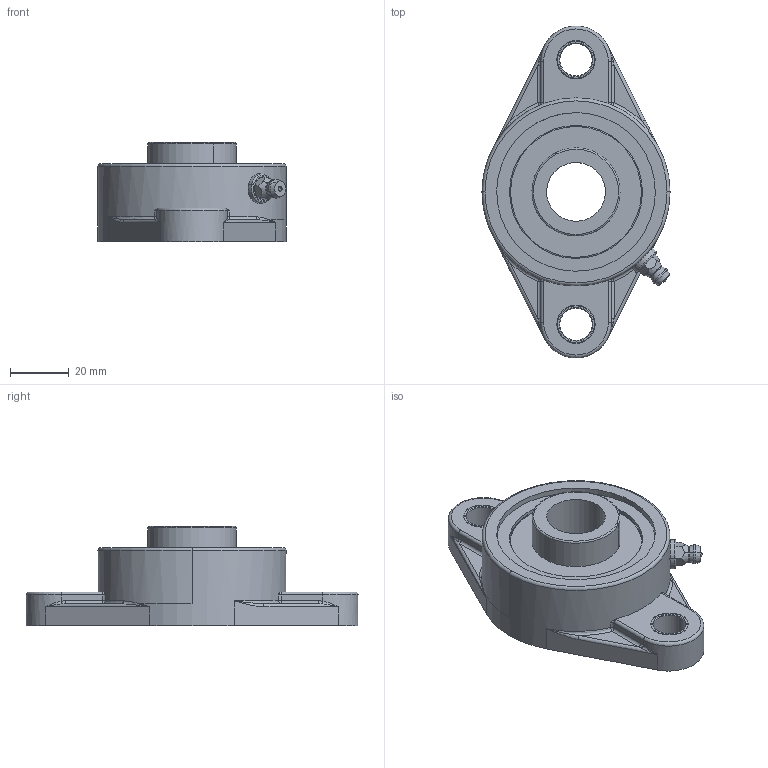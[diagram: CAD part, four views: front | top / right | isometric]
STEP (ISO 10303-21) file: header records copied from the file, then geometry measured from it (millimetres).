
FILE_DESCRIPTION(('CATIA V5 STEP Exchange'),'2;1');
FILE_NAME('\\server01\tecnico\CODICI MOVEX\3D per clienti\Tom\16-11-2012\P81300_01.stp','2012-11-16T15:14:40+00:00',('none'),('none'),'CATIA Version 5 Release 21 SP 1 (IN-10)','CATIA V5 STEP AP203','none');
FILE_SCHEMA(('CONFIG_CONTROL_DESIGN'));
Length unit declared in the file: millimetre
Products named in the file (1): UCFH-SS
Assembly tree (4 placements, depth 2):
  UCFH-SS
    #58
    #3568
    #4466
    #4749
Bounding box: 64 x 113 x 33.7 mm (x, y, z)
Volume: 75176 mm3; surface area: 26918.9 mm2
Topology: 6 solids, 6 shells, 164 faces, 384 edges, 224 vertices
Faces by surface type: cylinder 59, plane 37, torus 26, cone 18, bspline 14, sphere 10
Entity records: 5099 total; most frequent: CARTESIAN_POINT 1686, ORIENTED_EDGE 740, DIRECTION 524, EDGE_CURVE 370, AXIS2_PLACEMENT_3D 298, VERTEX_POINT 224, EDGE_LOOP 186, CIRCLE 185
